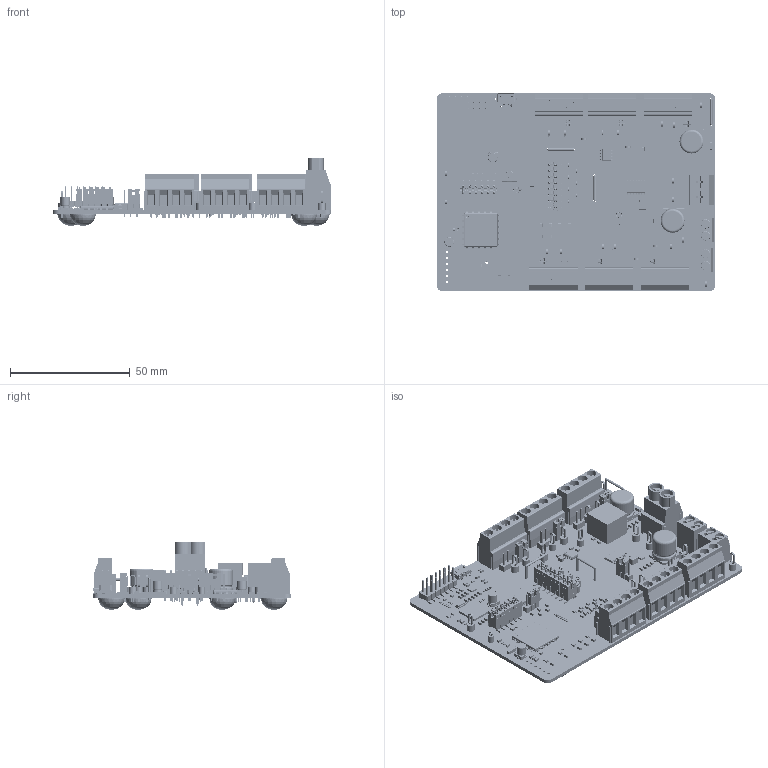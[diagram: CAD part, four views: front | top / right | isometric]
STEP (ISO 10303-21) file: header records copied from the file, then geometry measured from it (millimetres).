
FILE_DESCRIPTION(('Open CASCADE Model'),'2;1');
FILE_NAME('Open CASCADE Shape Model','2024-07-16T14:41:17',('Author'),( 'Open CASCADE'),'Open CASCADE STEP processor 7.5','Open CASCADE 7.5' ,'Unknown');
FILE_SCHEMA(('AUTOMOTIVE_DESIGN { 1 0 10303 214 1 1 1 1 }'));
Length unit declared in the file: millimetre
Products named in the file (526): PCB; Board; Open CASCADE STEP translator 7.5 1.1.1; U5; IC_DRV81242HTSSOP_HTSSOP24; IC_BODY; circle; IC_LEG; Ep; Texas Instruments_Updated_; IC_LEG_MIR9; U7; 6179305024; Extruded; 6179304864; C9; Cap_885012205018_0402; terminals; body; logo; TP35; Keystone_5011; Keystone_multipurpose_wire; Keystone5006_black; TP1; R68; 6179302464; 6179302304; J11; Conn_629105150921_CONN_PTH_USB_8MM0_5MM6; A1; 629105150921; 629105150921_Pin; 629105150921_1; Wurth Electronik; notch; R56; 6179304704; 6179304544; R58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
Assembly tree (992 placements, depth 6):
  PCB
    Board
      Open CASCADE STEP translator 7.5 1.1.1
    U5
      IC_DRV81242HTSSOP_HTSSOP24
        IC_BODY
        circle
        IC_LEG  x12
        Ep
        Texas Instruments_Updated_
        IC_LEG_MIR9  x12
    U7
      6179305024
        Extruded
      6179304864
        Extruded
    C9
      Cap_885012205018_0402
        terminals
        body
        logo
    TP35
      Keystone_5011
        Keystone_multipurpose_wire
        Keystone5006_black
    TP1
      Keystone_5011
        Keystone_multipurpose_wire
        Keystone5006_black
    R68
      6179302464  x2
        Extruded
      6179302304
        Extruded
    J11
      Conn_629105150921_CONN_PTH_USB_8MM0_5MM6
        A1
          629105150921
          629105150921_Pin  x5
          629105150921_1
        Wurth Electronik
        notch
    R56
      6179304704  x2
        Extruded
      6179304544
        Extruded
    R58
      6179302464  x2
        Extruded
      6179302304
        Extruded
    R59
      6179302464  x2
        Extruded
      6179302304
        Extruded
    R61
      6179304704  x2
        Extruded
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Bounding box: 116.1 x 82.85 x 28.17 mm (x, y, z)
Volume: 40772.3 mm3; surface area: 57635.1 mm2
Topology: 1436 solids, 1436 shells, 27253 faces, 69680 edges, 45341 vertices
Faces by surface type: plane 20136, cylinder 3980, bspline 2537, sphere 366, torus 216, cone 14, revolution 4
Full cylindrical faces by diameter (mm): 0.005 x4, 0.191 x1, 0.2 x1, 0.5 x2, 0.58 x2, 0.75 x2, 0.9 x12, 0.95 x4, 0.98 x2, 1.016 x39, 1.05 x9, 1.127 x6, 1.138 x2, 1.15 x6, 1.3 x34, 1.357 x1, 1.6 x23, 2.2 x4, 2.42 x2, 2.459 x4, 2.5 x10, 2.8 x2, 3 x13, 3.1 x4, 3.15 x1, 3.2 x21, 3.281 x24, 3.56 x2, 3.9 x6, 4 x30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
Entity records: 408927 total; most frequent: CARTESIAN_POINT 77433, ORIENTED_EDGE 58572, DIRECTION 53935, EDGE_CURVE 29286, LINE 22946, VECTOR 22946, VERTEX_POINT 19108, AXIS2_PLACEMENT_3D 15494
